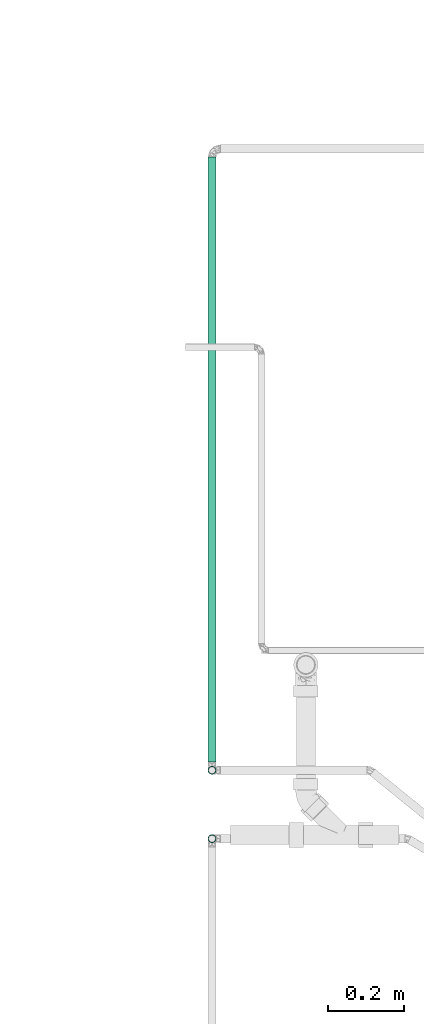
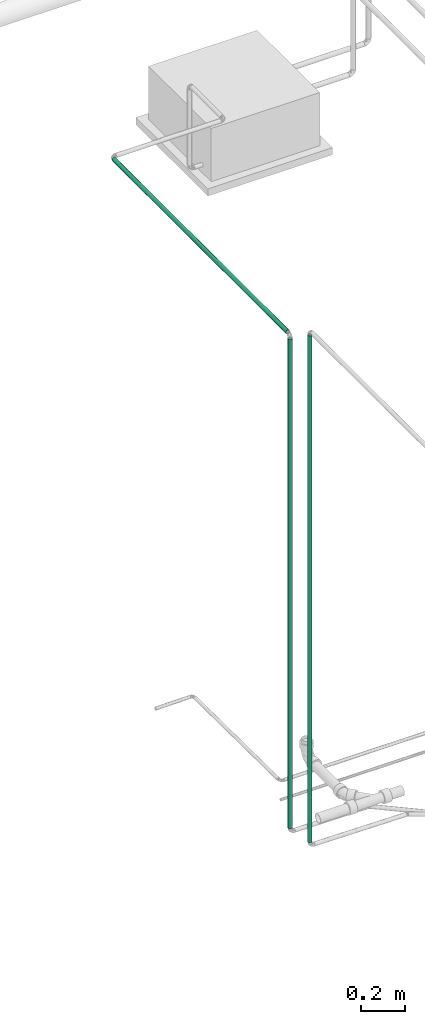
# One storey, part 6 of 35: 3 flow segments.
"""IFC2X3 building model written with IfcOpenShell, lengths in millimetres."""

import ifcopenshell
import ifcopenshell.guid

model = None  # the IFC model being written
_history = None  # IfcOwnerHistory: only IFC2X3 demands one
_inside = {}  # id of a spatial element -> (the spatial element, [elements in it])
_under = {}  # id of a project, library or spatial element -> (it, [spatial elements below it])
_declared = {}  # id of a project -> (the project, [libraries it declares])
_typed = {}  # id of a type object -> (the type object, [elements of that type])
_made_of = {}  # id of a material, layer set ... -> (it, [elements and type objects made of it])


def new_model(schema):
    """Start an empty IFC model of exactly this schema.

    Asked for "IFC4X3", IfcOpenShell would pick the latest addendum, in which some entities
    have other attributes; the version numbers below select the first issue.
    IFC2X3 requires an IfcOwnerHistory on every rooted entity: one is made here for all.
    """
    global model, _history
    if schema == "IFC4X3":
        model = ifcopenshell.file(schema_version=(4, 3, 0, 0))
    else:
        model = ifcopenshell.file(schema=schema)
    _inside.clear()
    _under.clear()
    _declared.clear()
    _typed.clear()
    _made_of.clear()
    _history = None
    if model.schema == "IFC2X3":
        org = make("IfcOrganization", Name="unknown")
        user = make(
            "IfcPersonAndOrganization",
            ThePerson=make("IfcPerson", FamilyName="unknown"),
            TheOrganization=org,
        )
        app = make(
            "IfcApplication",
            ApplicationDeveloper=org,
            Version="unknown",
            ApplicationFullName="unknown",
            ApplicationIdentifier="unknown",
        )
        _history = make(
            "IfcOwnerHistory",
            OwningUser=user,
            OwningApplication=app,
            ChangeAction="ADDED",
            CreationDate=0,
        )
    return model


def make(cls, **values):
    """One entity of the class cls with the attributes given. An attribute that is None is left unset."""
    return model.create_entity(
        cls, **{name: value for name, value in values.items() if value is not None}
    )


def entity(cls, *values):
    """Any entity or typed value of the class cls, its attributes in the order of the schema. None: left unset."""
    e = model.create_entity(cls)
    for i, value in enumerate(values):
        if value is not None:
            e[i] = value
    return e


def rooted(cls, **values):
    """An entity with a GlobalId (a new one), such as an element, a storey or a relation."""
    return make(cls, GlobalId=ifcopenshell.guid.new(), OwnerHistory=_history, **values)


def si_unit(unit_type, name, prefix=None):
    """IfcSIUnit, for example si_unit("LENGTHUNIT", "METRE", prefix="MILLI")."""
    return make("IfcSIUnit", UnitType=unit_type, Prefix=prefix, Name=name)


def converted_unit(unit_type, name, factor, base, dimensions=None, offset=None):
    """IfcConversionBasedUnit, such as the inch: factor (a typed value) times the base unit."""
    return make(
        "IfcConversionBasedUnit"
        if offset is None
        else "IfcConversionBasedUnitWithOffset",
        ConversionOffset=offset,
        Dimensions=None
        if dimensions is None
        else entity("IfcDimensionalExponents", *dimensions),
        UnitType=unit_type,
        Name=name,
        ConversionFactor=make(
            "IfcMeasureWithUnit", ValueComponent=factor, UnitComponent=base
        ),
    )


def derived_unit(unit_type, elements):
    """IfcDerivedUnit: a product of units, each with its exponent."""
    return make(
        "IfcDerivedUnit",
        Elements=[
            make("IfcDerivedUnitElement", Unit=unit, Exponent=power)
            for unit, power in elements
        ],
        UnitType=unit_type,
    )


def assignment(units):
    """IfcUnitAssignment: the units of a project."""
    return None if units is None else make("IfcUnitAssignment", Units=units)


def point(xyz):
    """IfcCartesianPoint."""
    return None if xyz is None else make("IfcCartesianPoint", Coordinates=xyz)


def direction(xyz):
    """IfcDirection."""
    return None if xyz is None else make("IfcDirection", DirectionRatios=xyz)


def frame(location, z_axis=None, x_axis=None):
    """IfcAxis2Placement3D, a coordinate frame: its origin and axes. An axis left out is left unset."""
    return make(
        "IfcAxis2Placement3D",
        Location=point(location),
        Axis=direction(z_axis),
        RefDirection=direction(x_axis),
    )


def frame_2d(location, x_axis=None):
    """IfcAxis2Placement2D, a coordinate frame in the plane: its origin and x axis."""
    return make(
        "IfcAxis2Placement2D", Location=point(location), RefDirection=direction(x_axis)
    )


def origin_with_axes():
    """The frame at (0, 0, 0) with the z axis (0, 0, 1) and the x axis (1, 0, 0) written out."""
    return frame((0.0, 0.0, 0.0), z_axis=(0.0, 0.0, 1.0), x_axis=(1.0, 0.0, 0.0))


def origin_2d_with_axis():
    """The frame at (0, 0) in the plane with the x axis (1, 0) written out."""
    return frame_2d((0.0, 0.0), x_axis=(1.0, 0.0))


def place(relative_to, where):
    """IfcLocalPlacement: puts the frame where relative to a parent placement (None: the world)."""
    return make(
        "IfcLocalPlacement", PlacementRelTo=relative_to, RelativePlacement=where
    )


def context(
    kind, dimensions, precision=None, world=None, true_north=None, identifier=None
):
    """IfcGeometricRepresentationContext, for example the 3D "Model" context."""
    return make(
        "IfcGeometricRepresentationContext",
        ContextIdentifier=identifier,
        ContextType=kind,
        CoordinateSpaceDimension=dimensions,
        Precision=precision,
        WorldCoordinateSystem=world,
        TrueNorth=true_north,
    )


def subcontext(parent, identifier, kind, view, scale=None):
    """IfcGeometricRepresentationSubContext, for example "Body" below "Model"."""
    return make(
        "IfcGeometricRepresentationSubContext",
        ContextIdentifier=identifier,
        ContextType=kind,
        ParentContext=parent,
        TargetScale=scale,
        TargetView=view,
    )


def project(units=None, contexts=None):
    """IfcProject with its units and contexts."""
    return rooted(
        "IfcProject",
        Name="project",
        RepresentationContexts=contexts,
        UnitsInContext=assignment(units),
    )


def spatial(cls, under=None, at=None, **own):
    """A site, building, storey or space (cls), placed at a placement, below another one or the project."""
    s = rooted(cls, ObjectPlacement=at, **own)
    if under is not None:
        _under.setdefault(under.id(), (under, []))[1].append(s)
    return s


def profile(cls, at=None, kind="AREA", **sizes):
    """A parametric profile (cls). Its sizes go by their IFC names, for example OverallWidth=200.0."""
    return make(cls, ProfileType=kind, Position=at, **sizes)


def hollow_circle(**sizes):
    """IfcCircleHollowProfileDef."""
    return profile("IfcCircleHollowProfileDef", **sizes)


def extrude(swept, where, along, depth):
    """IfcExtrudedAreaSolid: the profile swept, set in the frame where, extruded along a direction by depth."""
    return make(
        "IfcExtrudedAreaSolid",
        SweptArea=swept,
        Position=where,
        ExtrudedDirection=direction(along),
        Depth=depth,
    )


def shape(context_of_items, identifier, shape_type, items):
    """IfcShapeRepresentation: the items that make up one representation, for example the "Body"."""
    return make(
        "IfcShapeRepresentation",
        ContextOfItems=context_of_items,
        RepresentationIdentifier=identifier,
        RepresentationType=shape_type,
        Items=items,
    )


def source(mapping_origin, context_of_items, identifier, shape_type, items):
    """IfcRepresentationMap: a shape defined once, which mapped items show again and again."""
    return make(
        "IfcRepresentationMap",
        MappingOrigin=mapping_origin,
        MappedRepresentation=shape(context_of_items, identifier, shape_type, items),
    )


def transform(
    local_origin,
    x_axis=None,
    y_axis=None,
    z_axis=None,
    scale=None,
    scale2=None,
    scale3=None,
    uniform=True,
):
    """IfcCartesianTransformationOperator3D, or its non-uniform kind. x_axis, y_axis, z_axis: its Axis1, 2, 3."""
    if uniform:
        return make(
            "IfcCartesianTransformationOperator3D",
            Axis1=direction(x_axis),
            Axis2=direction(y_axis),
            LocalOrigin=point(local_origin),
            Scale=scale,
            Axis3=direction(z_axis),
        )
    return make(
        "IfcCartesianTransformationOperator3DnonUniform",
        Axis1=direction(x_axis),
        Axis2=direction(y_axis),
        LocalOrigin=point(local_origin),
        Scale=scale,
        Axis3=direction(z_axis),
        Scale2=scale2,
        Scale3=scale3,
    )


def mapped(mapping_source, mapping_target):
    """IfcMappedItem: shows the shape of a source again, moved by a transform."""
    return make(
        "IfcMappedItem", MappingSource=mapping_source, MappingTarget=mapping_target
    )


def made_of(thing, what):
    """Note that an element or type object is made of a material, layer set ...; save() writes the relation."""
    if what is not None:
        _made_of.setdefault(what.id(), (what, []))[1].append(thing)
    return thing


def type_object(cls, material=None, **own):
    """A type object (cls), such as IfcWallType, which elements share."""
    return made_of(rooted(cls, **own), material)


def element(
    cls,
    number,
    at=None,
    inside=None,
    cuts=None,
    type_object=None,
    material=None,
    context=None,
    identifier="Body",
    shape_type=None,
    held_by="IfcProductDefinitionShape",
    body=None,
    shapes=None,
    **own,
):
    """One element of the class cls, such as IfcWall. Its Tag is "e" and its number.

    at: its placement. inside: the storey or other place that contains it. cuts: it is an
    opening in that element (IfcRelVoidsElement). A single representation is given by context,
    identifier, shape_type and body (its items); several are given by shapes. held_by: the class
    of the entity that holds the representations. save() writes the other relations.
    """
    e = rooted(cls, Tag="e%d" % number, ObjectPlacement=at, **own)
    if body is not None:
        shapes = [shape(context, identifier, shape_type, body)]
    if shapes is not None:
        e.Representation = make(held_by, Representations=shapes)
    if inside is not None:
        _inside.setdefault(inside.id(), (inside, []))[1].append(e)
    if cuts is not None:
        rooted(
            "IfcRelVoidsElement", RelatingBuildingElement=cuts, RelatedOpeningElement=e
        )
    if type_object is not None:
        _typed.setdefault(type_object.id(), (type_object, []))[1].append(e)
    return made_of(e, material)


def aggregate(whole, parts):
    """IfcRelAggregates: a whole, such as a stair, and the parts it consists of."""
    return rooted("IfcRelAggregates", RelatingObject=whole, RelatedObjects=parts)


def save(model, path):
    """Write the relations noted so far, then the file.

    IfcRelAggregates (storeys below a building ...), IfcRelContainedInSpatialStructure (elements
    in a storey), IfcRelDefinesByType, IfcRelAssociatesMaterial and IfcRelDeclares: one each for
    every whole, place, type object, material and project.
    """
    for whole, parts in _under.values():
        aggregate(whole, parts)
    for where, things in _inside.values():
        rooted(
            "IfcRelContainedInSpatialStructure",
            RelatedElements=things,
            RelatingStructure=where,
        )
    for kind, things in _typed.values():
        rooted("IfcRelDefinesByType", RelatedObjects=things, RelatingType=kind)
    for what, things in _made_of.values():
        rooted("IfcRelAssociatesMaterial", RelatedObjects=things, RelatingMaterial=what)
    for by, libraries in _declared.values():
        rooted("IfcRelDeclares", RelatingContext=by, RelatedDefinitions=libraries)
    model.write(path)


model = new_model("IFC2X3")

# Units and contexts
model_context = context("Model", 3, precision=0.01, world=frame((0.0, 4.29681676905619e-09, 0.0)), true_north=direction((4.01073788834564e-13, 1.0)))
plan_context = context("Plan", 3, precision=0.01, world=frame((0.0, 4.29681676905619e-09, 0.0)), true_north=direction((4.01073788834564e-13, 1.0)))
body_context = subcontext(model_context, "Body", "Model", "MODEL_VIEW")
ifc_project = project(units=[converted_unit("PLANEANGLEUNIT", "DEGREE", entity("IfcPositiveLengthMeasure", 0.0174532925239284), si_unit("PLANEANGLEUNIT", "RADIAN"), dimensions=[0, 0, 0, 0, 0, 0, 0]), si_unit("AREAUNIT", "SQUARE_METRE"), si_unit("LENGTHUNIT", "METRE", prefix="MILLI"), si_unit("MASSUNIT", "GRAM", prefix="KILO"), si_unit("POWERUNIT", "WATT"), si_unit("PRESSUREUNIT", "PASCAL"), si_unit("FORCEUNIT", "NEWTON", prefix="KILO"), si_unit("ELECTRICVOLTAGEUNIT", "VOLT"), si_unit("ELECTRICCURRENTUNIT", "AMPERE"), si_unit("THERMODYNAMICTEMPERATUREUNIT", "DEGREE_CELSIUS"), si_unit("TIMEUNIT", "SECOND"), si_unit("VOLUMEUNIT", "CUBIC_METRE"), derived_unit("LINEARVELOCITYUNIT", [(si_unit("LENGTHUNIT", "METRE"), 1), (si_unit("TIMEUNIT", "SECOND"), -1)]), derived_unit("VOLUMETRICFLOWRATEUNIT", [(si_unit("VOLUMEUNIT", "CUBIC_METRE"), 1), (si_unit("TIMEUNIT", "SECOND"), -1)]), derived_unit("THERMALTRANSMITTANCEUNIT", [(si_unit("POWERUNIT", "WATT"), 1), (si_unit("THERMODYNAMICTEMPERATUREUNIT", "KELVIN"), -1), (si_unit("AREAUNIT", "SQUARE_METRE"), -1)]), derived_unit("SOUNDPRESSUREUNIT", [(si_unit("PRESSUREUNIT", "PASCAL"), 1)])], contexts=[model_context, plan_context])

# Site, building, storey
site_placement = place(None, frame((0.0, -4.29681676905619e-09, 0.0), z_axis=(0.0, 0.0, 1.0), x_axis=(1.0, 0.0, 0.0)))
site = spatial("IfcSite", under=ifc_project, at=site_placement, Name="ENGM", CompositionType="ELEMENT")
building_placement = place(site_placement, frame((0.0, 4.29681676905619e-09, 0.0), z_axis=(0.0, 0.0, 1.0), x_axis=(1.0, 0.0, 0.0)))
building = spatial("IfcBuilding", under=site, at=building_placement, Name="TH", CompositionType="ELEMENT")
storey_placement = place(building_placement, frame((0.0, 0.0, 210200.0), z_axis=(0.0, 0.0, 1.0), x_axis=(1.0, 0.0, 0.0)))
storey = spatial("IfcBuildingStorey", under=building, at=storey_placement, Name="Nivå F - 0,7 m", CompositionType="ELEMENT", Elevation=210200.0)

# Flow segments
pipe_segment_type = type_object("IfcPipeSegmentType", Name="Kobberrør", PredefinedType="RIGIDSEGMENT")
shared_shape_1 = source(origin_with_axes(), body_context, "Body", "SweptSolid", [
    extrude(hollow_circle(Radius=11.0, WallThickness=2.0, at=origin_2d_with_axis()), frame((0.0, 0.0, 0.0), z_axis=(1.0, 0.0, 0.0), x_axis=(0.0, 1.0, 0.0)), (0.0, 0.0, 1.0), 2740.1),
])
flow_segment_1_placement = place(storey_placement, frame((898499.95953, 483661.97722, 2918.10011), z_axis=(0.0, 1.0, 0.0), x_axis=(0.0, 0.0, -1.0)))
element("IfcFlowSegment", 1, at=flow_segment_1_placement, inside=storey, type_object=pipe_segment_type, Name="Kobberrør", context=body_context, shape_type="MappedRepresentation", body=[
    mapped(shared_shape_1, transform((0.0, 0.0, 0.0), scale=1.0)),
])
shared_shape_2 = source(origin_with_axes(), body_context, "Body", "SweptSolid", [
    extrude(hollow_circle(Radius=11.0, WallThickness=2.0, at=origin_2d_with_axis()), frame((0.0, 0.0, 0.0), z_axis=(1.0, 0.0, 0.0), x_axis=(0.0, 1.0, 0.0)), (0.0, 0.0, 1.0), 1594.8),
])
flow_segment_2_placement = place(storey_placement, frame((898499.95953, 485278.66876, 2940.09995999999), z_axis=(0.0, 0.0, 1.0), x_axis=(0.0, -1.0, 0.0)))
element("IfcFlowSegment", 2, at=flow_segment_2_placement, inside=storey, type_object=pipe_segment_type, Name="Kobberrør", context=body_context, shape_type="MappedRepresentation", body=[
    mapped(shared_shape_2, transform((0.0, 0.0, 0.0), scale=1.0)),
])
shared_shape_3 = source(origin_with_axes(), body_context, "Body", "SweptSolid", [
    extrude(hollow_circle(Radius=11.0, WallThickness=2.0, at=origin_2d_with_axis()), frame((0.0, 0.0, 0.0), z_axis=(1.0, 0.0, 0.0), x_axis=(0.0, 1.0, 0.0)), (0.0, 0.0, 1.0), 2837.8),
])
flow_segment_3_placement = place(storey_placement, frame((898499.99953, 483481.52017, 3048.08699000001), z_axis=(-1.0, 0.0, 0.0), x_axis=(0.0, 3.999999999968e-06, -0.999999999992)))
element("IfcFlowSegment", 3, at=flow_segment_3_placement, inside=storey, type_object=pipe_segment_type, Name="Kobberrør", context=body_context, shape_type="MappedRepresentation", body=[
    mapped(shared_shape_3, transform((0.0, 0.0, 0.0), scale=1.0)),
])

save(model, "model.ifc")
